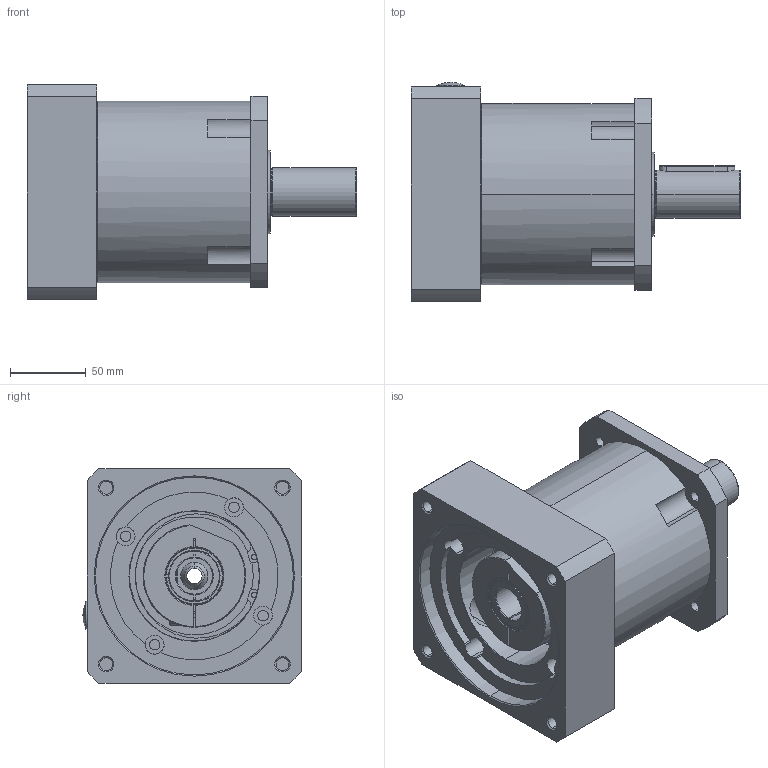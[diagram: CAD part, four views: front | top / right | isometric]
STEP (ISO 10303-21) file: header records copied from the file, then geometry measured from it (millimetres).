
FILE_DESCRIPTION (( 'STEP AP214' ), '1' );
FILE_NAME ('AL-042-0RR-FFF-MMM-S-LL-XXX-BXX-0000.STEP', '2019-10-23T15:39:24', ( '' ), ( '' ), 'SwSTEP 2.0', 'SolidWorks 2019', '' );
FILE_SCHEMA (( 'AUTOMOTIVE_DESIGN' ));
Length unit declared in the file: millimetre
Products named in the file (1): AL-042-0RR-FFF-MMM-S-LL-XXX-BXX-0000
Bounding box: 218 x 145.1 x 142 mm (x, y, z)
Surface area: 179361.8 mm2 (no closed solid volume)
Topology: 0 solids, 72 shells, 341 faces, 2061 edges, 1773 vertices
Faces by surface type: plane 155, cylinder 106, cone 47, torus 29, sphere 2, bspline 2
Entity records: 30577 total; most frequent: CARTESIAN_POINT 12346, ORIENTED_EDGE 2640, DIRECTION 2480, EDGE_CURVE 2053, VERTEX_POINT 1773, LINE 994, VECTOR 994, AXIS2_PLACEMENT_3D 743
